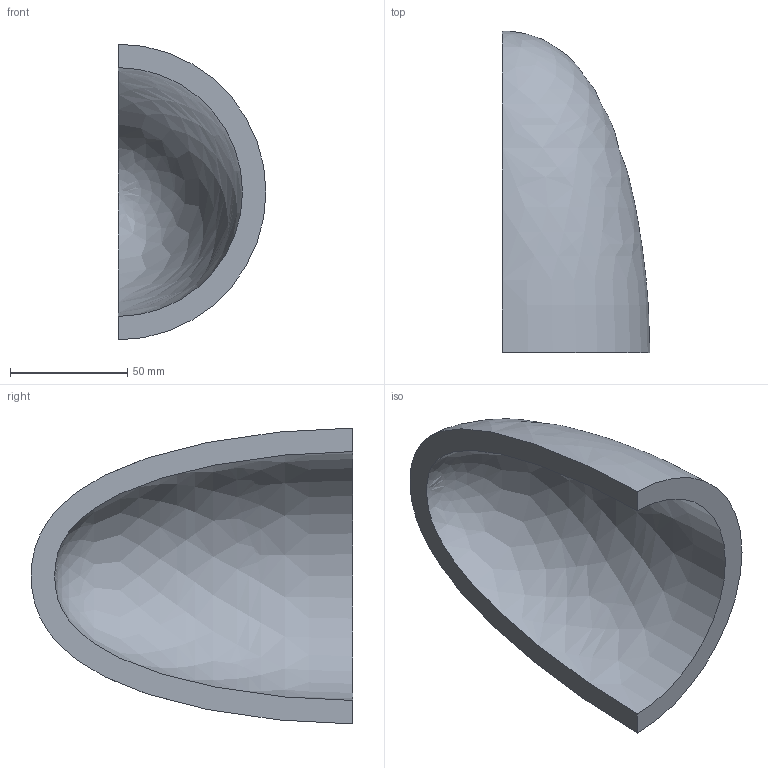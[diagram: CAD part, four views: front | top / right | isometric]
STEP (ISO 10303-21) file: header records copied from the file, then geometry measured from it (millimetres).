
FILE_DESCRIPTION(('CATIA V5 STEP Exchange'),'2;1');
FILE_NAME('C:\_Andres\UNIVERSIDAD\IQS\ASIGNATURAS\DAO\EXF\EXF-16172c\2inicio\Garcia_Granada_Ej10_v37.stp','2017-03-05T22:31:17+00:00',('none'),('none'),'CATIA Version 5-6 Release 2014 SP1 HF18','CATIA V5 STEP AP203','none');
FILE_SCHEMA(('CONFIG_CONTROL_DESIGN'));
Length unit declared in the file: millimetre
Products named in the file (1): Garcia_Granada_Ej10_v37
Bounding box: 63 x 137 x 126 mm (x, y, z)
Volume: 207838.4 mm3; surface area: 46631.4 mm2
Topology: 1 solids, 1 shells, 4 faces, 10 edges, 6 vertices
Faces by surface type: revolution 2, plane 2
Entity records: 260 total; most frequent: CARTESIAN_POINT 138, ORIENTED_EDGE 16, DIRECTION 10, EDGE_CURVE 8, B_SPLINE_CURVE_WITH_KNOTS 6, VERTEX_POINT 6, AXIS2_PLACEMENT_3D 5, ADVANCED_FACE 4
